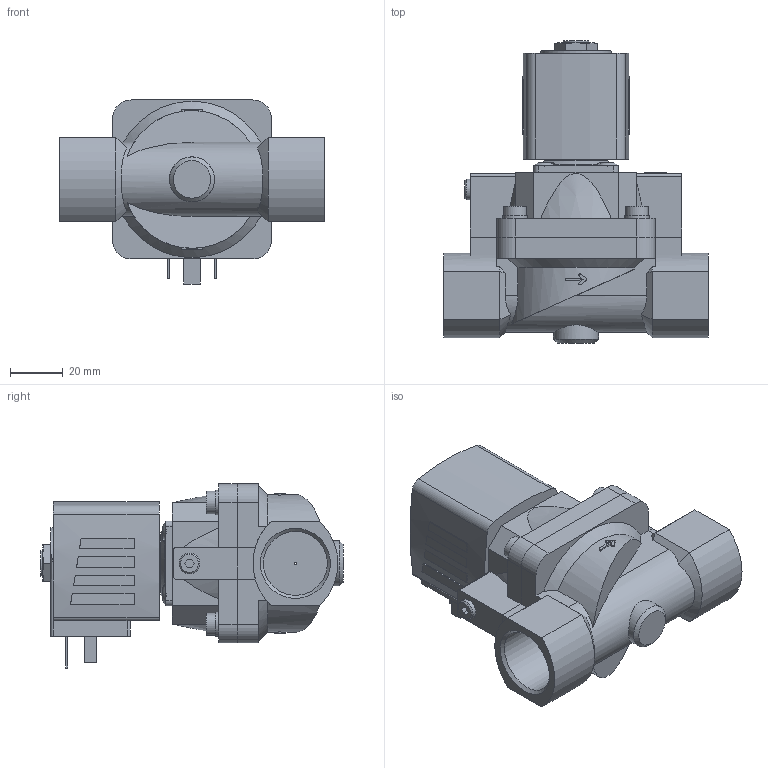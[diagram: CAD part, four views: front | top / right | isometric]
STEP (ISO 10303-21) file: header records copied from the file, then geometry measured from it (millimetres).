
FILE_DESCRIPTION(/* description */ ('STEP AP214'),/* implementation_level */ '2;1');
FILE_NAME(/* name */ '5404-295657-Servo-assisted_2_2_way_piston_valve',/* time_stamp */ '2024-02-28T21:45:13+01:00',/* author */ ('License CC BY-ND 4.0'),/* organization */ ('CADENAS'),/* preprocessor_version */ 'ST-DEVELOPER v19.3',/* originating_system */ 'PARTsolutions',/* authorisation */ ' ');
FILE_SCHEMA (('AUTOMOTIVE_DESIGN {1 0 10303 214 3 1 1}'));
Length unit declared in the file: millimetre
Products named in the file (4): 5404-295657-Servo-assisted 2/2 way piston valve; 5282g-8520MS000-2/2-Wege-Magnetventil_Gehaeuse; 5282d-20MSAU3J-2/2-Wege-Magnetventil_Deckel; AC10ex-6NA38-Plan-Coil
Assembly tree (3 placements, depth 2):
  5404-295657-Servo-assisted 2/2 way piston valve
    5282g-8520MS000-2/2-Wege-Magnetventil_Gehaeuse
    5282d-20MSAU3J-2/2-Wege-Magnetventil_Deckel
    AC10ex-6NA38-Plan-Coil
Bounding box: 100 x 114.1 x 69.5 mm (x, y, z)
Volume: 252440.4 mm3; surface area: 47992.6 mm2
Topology: 3 solids, 3 shells, 311 faces, 770 edges, 507 vertices
Faces by surface type: plane 195, cylinder 85, cone 26, torus 5
Full cylindrical faces by diameter (mm): 1 x1, 2.013 x1, 4 x4, 7.5 x4, 7.6 x4, 7.8 x1, 8.5 x4, 9.2 x4, 9.74 x1, 17 x1, 21 x1, 24.117 x2
Entity records: 9830 total; most frequent: CARTESIAN_POINT 1807, DIRECTION 1514, ORIENTED_EDGE 1440, EDGE_CURVE 720, AXIS2_PLACEMENT_3D 540, VERTEX_POINT 496, LINE 434, VECTOR 434
